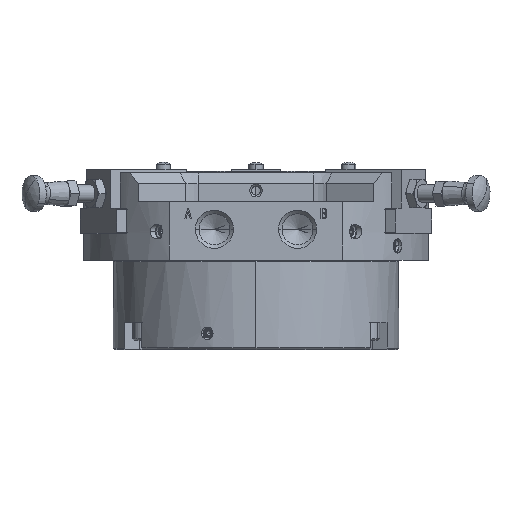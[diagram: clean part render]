
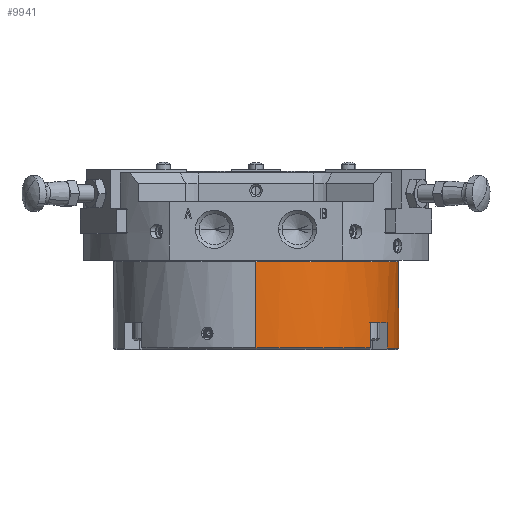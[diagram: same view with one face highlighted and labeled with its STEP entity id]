
A CAD part, top view. The second image highlights one B-rep face of the part: STEP entity #9941.
In plain terms, the highlighted cylindrical face has radius 40 mm (diameter 80 mm), a partial arc.
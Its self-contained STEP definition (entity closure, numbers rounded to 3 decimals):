
#1147 = ORIENTED_EDGE ( 'NONE', *, *, #45572, .T. ) ;
#1415 = VERTEX_POINT ( 'NONE', #12604 ) ;
#3929 = VECTOR ( 'NONE', #23526, 1000. ) ;
#6769 = LINE ( 'NONE', #15995, #42948 ) ;
#8029 = ORIENTED_EDGE ( 'NONE', *, *, #63278, .F. ) ;
#9161 = ORIENTED_EDGE ( 'NONE', *, *, #44957, .F. ) ;
#9509 = DIRECTION ( 'NONE',  ( 0., -1., 0. ) ) ;
#9941 = ADVANCED_FACE ( 'NONE', ( #49985 ), #59845, .T. ) ;
#12604 = CARTESIAN_POINT ( 'NONE',  ( 0., 0.4, 40. ) ) ;
#13161 = DIRECTION ( 'NONE',  ( 0., 1., 0. ) ) ;
#13675 = DIRECTION ( 'NONE',  ( 0., 1., 0. ) ) ;
#14989 = CIRCLE ( 'NONE', #28631, 40. ) ;
#15014 = EDGE_CURVE ( 'NONE', #43214, #53978, #44348, .T. ) ;
#15995 = CARTESIAN_POINT ( 'NONE',  ( 39.591, 26.25, -5.708 ) ) ;
#19895 = LINE ( 'NONE', #30086, #59342 ) ;
#20693 = ORIENTED_EDGE ( 'NONE', *, *, #40003, .F. ) ;
#20720 = DIRECTION ( 'NONE',  ( 0., 1., 0. ) ) ;
#22023 = VERTEX_POINT ( 'NONE', #54965 ) ;
#23526 = DIRECTION ( 'NONE',  ( 0., 1., 0. ) ) ;
#26418 = CARTESIAN_POINT ( 'NONE',  ( 0., 24.6, 0. ) ) ;
#28631 = AXIS2_PLACEMENT_3D ( 'NONE', #40304, #13675, #39967 ) ;
#29559 = CARTESIAN_POINT ( 'NONE',  ( 32.021, 26.25, 23.972 ) ) ;
#30083 = EDGE_LOOP ( 'NONE', ( #8029, #52211, #9161, #55024, #20693, #41675, #1147, #58735 ) ) ;
#30086 = CARTESIAN_POINT ( 'NONE',  ( 36.771, 26.25, 15.745 ) ) ;
#30228 = LINE ( 'NONE', #29559, #34517 ) ;
#31365 = CARTESIAN_POINT ( 'NONE',  ( 39.591, 0.4, -5.708 ) ) ;
#32325 = VERTEX_POINT ( 'NONE', #46785 ) ;
#33117 = DIRECTION ( 'NONE',  ( 0., 1., 0. ) ) ;
#34517 = VECTOR ( 'NONE', #9509, 1000. ) ;
#34878 = AXIS2_PLACEMENT_3D ( 'NONE', #26418, #52700, #62866 ) ;
#36669 = CARTESIAN_POINT ( 'NONE',  ( 0., 24.6, 40. ) ) ;
#37363 = EDGE_CURVE ( 'NONE', #32325, #60825, #64299, .T. ) ;
#38639 = CARTESIAN_POINT ( 'NONE',  ( 0., 26.25, 40. ) ) ;
#39967 = DIRECTION ( 'NONE',  ( 0., 0., 1. ) ) ;
#40003 = EDGE_CURVE ( 'NONE', #32325, #22023, #19895, .T. ) ;
#40304 = CARTESIAN_POINT ( 'NONE',  ( 0., 0.4, 0. ) ) ;
#41675 = ORIENTED_EDGE ( 'NONE', *, *, #37363, .T. ) ;
#42948 = VECTOR ( 'NONE', #46238, 1000. ) ;
#43214 = VERTEX_POINT ( 'NONE', #36669 ) ;
#43649 = CIRCLE ( 'NONE', #60463, 40. ) ;
#44348 = CIRCLE ( 'NONE', #34878, 40. ) ;
#44957 = EDGE_CURVE ( 'NONE', #52902, #52185, #30228, .T. ) ;
#45049 = DIRECTION ( 'NONE',  ( 0., 0., 1. ) ) ;
#45572 = EDGE_CURVE ( 'NONE', #60825, #53978, #6769, .T. ) ;
#46238 = DIRECTION ( 'NONE',  ( 0., 1., 0. ) ) ;
#46785 = CARTESIAN_POINT ( 'NONE',  ( 36.771, 0.4, 15.745 ) ) ;
#49985 = FACE_OUTER_BOUND ( 'NONE', #30083, .T. ) ;
#50057 = EDGE_CURVE ( 'NONE', #1415, #52185, #14989, .T. ) ;
#52185 = VERTEX_POINT ( 'NONE', #63038 ) ;
#52211 = ORIENTED_EDGE ( 'NONE', *, *, #50057, .T. ) ;
#52700 = DIRECTION ( 'NONE',  ( 0., 1., 0. ) ) ;
#52902 = VERTEX_POINT ( 'NONE', #54274 ) ;
#53274 = DIRECTION ( 'NONE',  ( 0., 0., -1. ) ) ;
#53978 = VERTEX_POINT ( 'NONE', #62709 ) ;
#54274 = CARTESIAN_POINT ( 'NONE',  ( 32.021, 7.5, 23.972 ) ) ;
#54883 = EDGE_CURVE ( 'NONE', #52902, #22023, #43649, .T. ) ;
#54965 = CARTESIAN_POINT ( 'NONE',  ( 36.771, 7.5, 15.745 ) ) ;
#55024 = ORIENTED_EDGE ( 'NONE', *, *, #54883, .T. ) ;
#57780 = CARTESIAN_POINT ( 'NONE',  ( 0., 0.4, 0. ) ) ;
#58102 = DIRECTION ( 'NONE',  ( 0., 0., 1. ) ) ;
#58202 = CARTESIAN_POINT ( 'NONE',  ( 0., 7.5, 0. ) ) ;
#58735 = ORIENTED_EDGE ( 'NONE', *, *, #15014, .F. ) ;
#59009 = LINE ( 'NONE', #38639, #3929 ) ;
#59342 = VECTOR ( 'NONE', #59662, 1000. ) ;
#59662 = DIRECTION ( 'NONE',  ( 0., 1., 0. ) ) ;
#59845 = CYLINDRICAL_SURFACE ( 'NONE', #62271, 40. ) ;
#60463 = AXIS2_PLACEMENT_3D ( 'NONE', #58202, #13161, #53274 ) ;
#60825 = VERTEX_POINT ( 'NONE', #31365 ) ;
#62244 = AXIS2_PLACEMENT_3D ( 'NONE', #57780, #33117, #58102 ) ;
#62271 = AXIS2_PLACEMENT_3D ( 'NONE', #64765, #20720, #45049 ) ;
#62709 = CARTESIAN_POINT ( 'NONE',  ( 39.591, 24.6, -5.708 ) ) ;
#62866 = DIRECTION ( 'NONE',  ( 0., 0., 1. ) ) ;
#63038 = CARTESIAN_POINT ( 'NONE',  ( 32.021, 0.4, 23.972 ) ) ;
#63278 = EDGE_CURVE ( 'NONE', #1415, #43214, #59009, .T. ) ;
#64299 = CIRCLE ( 'NONE', #62244, 40. ) ;
#64765 = CARTESIAN_POINT ( 'NONE',  ( 0., 26.25, 0. ) ) ;
